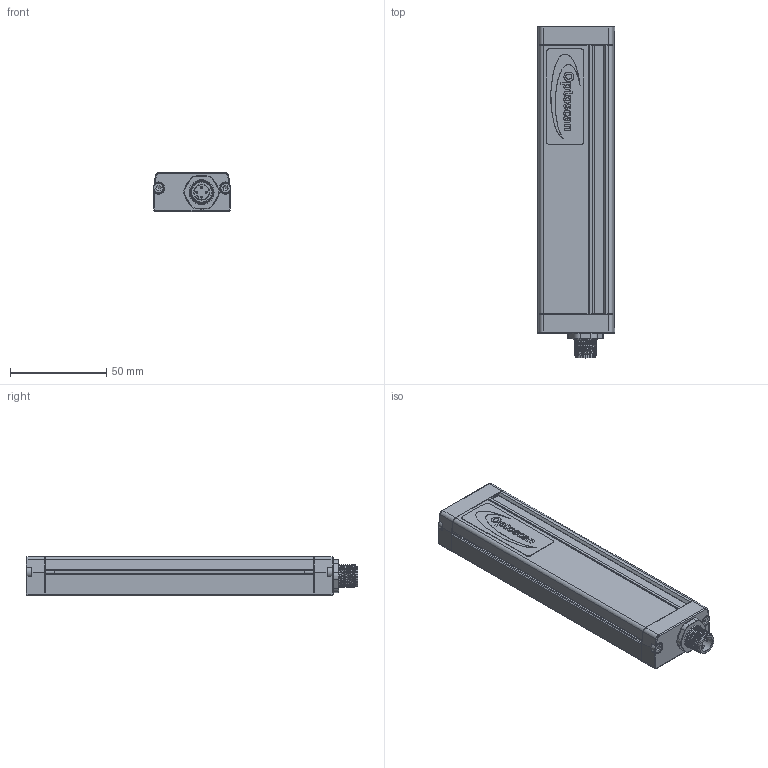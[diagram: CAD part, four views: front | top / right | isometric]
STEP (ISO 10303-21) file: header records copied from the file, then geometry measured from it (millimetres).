
FILE_DESCRIPTION(/* description */ (''),/* implementation_level */ '2;1');
FILE_NAME(/* name */ 'C:\Users\Andrea\SynologyDrive\Optoscan\Libreria Componenti\00 - Barriere\Barriera sorgente\Barriera RX\Argo_140_RX.stp',/* time_stamp */ '2022-06-30T15:46:13+02:00',/* author */ ('Andrea'),/* organization */ (''),/* preprocessor_version */ 'ST-DEVELOPER v18.1',/* originating_system */ 'Autodesk Inventor 2022',/* authorisation */ '');
FILE_SCHEMA (('AUTOMOTIVE_DESIGN { 1 0 10303 214 3 1 1 }'));
Length unit declared in the file: millimetre
Products named in the file (1): Argo_140_RX
Bounding box: 40.5 x 172.8 x 20.75 mm (x, y, z)
Volume: 38445.2 mm3; surface area: 46809.9 mm2
Topology: 1 solids, 2 shells, 753 faces, 2017 edges, 1278 vertices
Faces by surface type: plane 336, cylinder 216, bspline 115, torus 72, cone 8, sphere 6
Full cylindrical faces by diameter (mm): 1 x12, 1.2 x4, 2.459 x4, 2.5 x4, 3 x4, 3.5 x4, 5.5 x4, 8 x1, 10 x1, 10.5 x2, 11.75 x8, 12 x1, 12.3 x3, 14.5 x1, 16.7 x1, 17.5 x1
Entity records: 30151 total; most frequent: CARTESIAN_POINT 11037, ORIENTED_EDGE 4018, DIRECTION 3500, EDGE_CURVE 2009, VERTEX_POINT 1278, AXIS2_PLACEMENT_3D 1219, LINE 1062, VECTOR 1062
